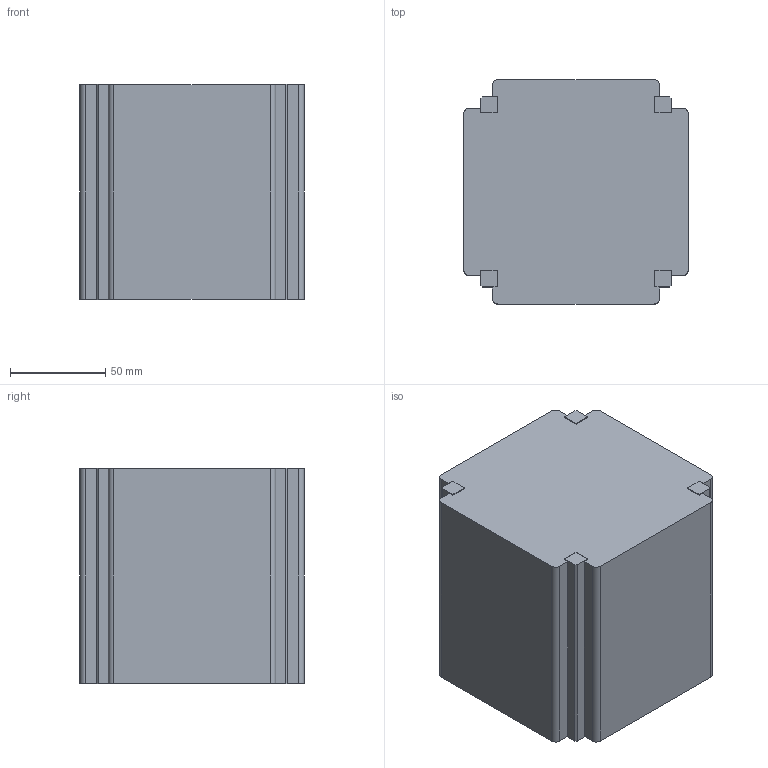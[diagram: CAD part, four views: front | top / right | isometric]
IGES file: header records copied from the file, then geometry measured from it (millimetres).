
Start section:  PTC IGES file: C:\Users\gleb\z) Windows folders\Desktop\1) ISIPOD Fligh t Model\4) CubeSat_Dims\140922_RevB_1U_CubeSat_ISIS_Advised_Max _Dimensi ons.igs
Global section: file name: C:\Users\gleb\z) Windows folders\Desktop\1) ISIPOD Flight Model\4) CubeSat_Dims\140922_RevB_1U_CubeSat_ISIS_Advised_Max _Dimensions.igs; native system: gleb by Parametric Technology Corporation; preprocessor: 2003250; author: Unknown; organization: PTC; date: 140923.103717; units: millimetre
Bounding box: 118 x 118 x 113.5 mm (x, y, z)
Volume: 1479723.7 mm3; surface area: 78112.3 mm2
Topology: 1 solids, 1 shells, 58 faces, 168 edges, 112 vertices
Faces by surface type: bspline 50, revolution 8
